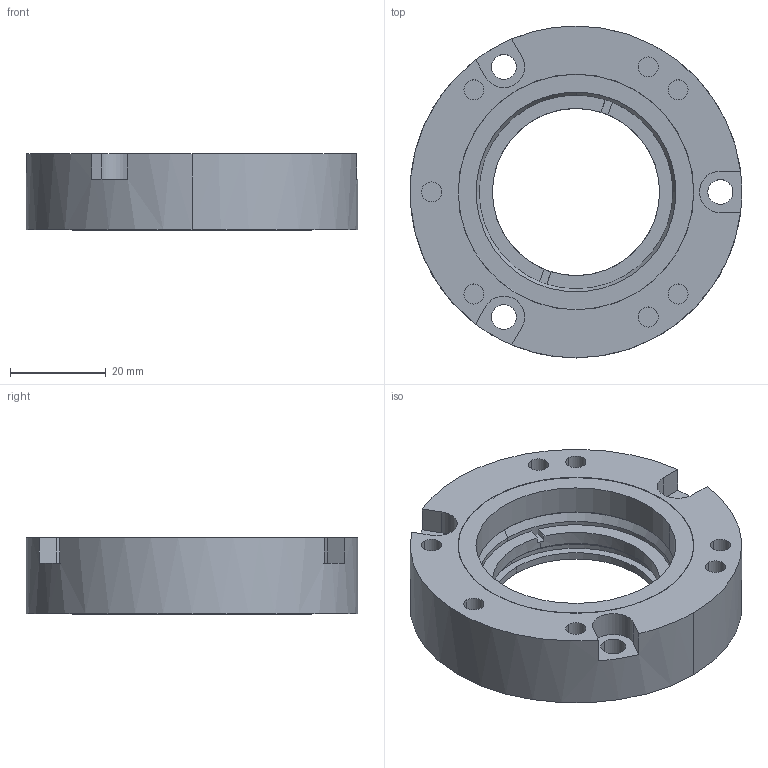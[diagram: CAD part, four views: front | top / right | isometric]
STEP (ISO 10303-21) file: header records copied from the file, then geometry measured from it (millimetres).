
FILE_DESCRIPTION (( 'STEP AP214' ), '1' );
FILE_NAME ('BBK-38-W-38.STEP', '2017-03-24T15:58:20', ( '' ), ( '' ), 'SwSTEP 2.0', 'SolidWorks 2017', '' );
FILE_SCHEMA (( 'AUTOMOTIVE_DESIGN' ));
Length unit declared in the file: inch
Products named in the file (1): BBK-38-W-38
Bounding box: 69.34 x 69.34 x 16 mm (x, y, z)
Volume: 37255.3 mm3; surface area: 18318.9 mm2
Topology: 4 solids, 4 shells, 109 faces, 249 edges, 158 vertices
Faces by surface type: cylinder 52, plane 35, cone 16, torus 6
Entity records: 3218 total; most frequent: DIRECTION 607, CARTESIAN_POINT 529, ORIENTED_EDGE 498, AXIS2_PLACEMENT_3D 252, EDGE_CURVE 249, VERTEX_POINT 158, CIRCLE 142, EDGE_LOOP 133
